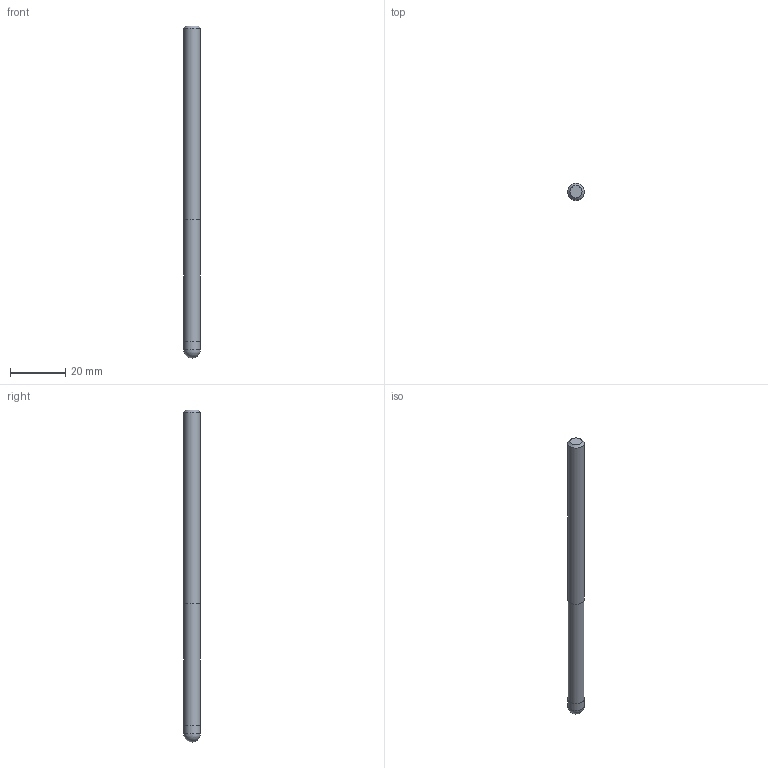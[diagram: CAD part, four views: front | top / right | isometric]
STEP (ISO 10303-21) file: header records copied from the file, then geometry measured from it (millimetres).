
FILE_DESCRIPTION((''),'2;1');
FILE_NAME('C:\Users\nsx150\AppData\Local\Temp\Mastercam 2021\3SYKECWX22\TEMP.step','2021-04-22T10:06:05',(''),(''),'STEP Write','Mastercam 2021 ... CNC Software, Inc.','');
FILE_SCHEMA(('AUTOMOTIVE_DESIGN'));
Length unit declared in the file: millimetre
Products named in the file (1): None
Bounding box: 6 x 6 x 120 mm (x, y, z)
Volume: 3277.6 mm3; surface area: 2309.5 mm2
Topology: 2 solids, 2 shells, 9 faces, 13 edges, 8 vertices
Faces by surface type: plane 4, cylinder 3, sphere 1, cone 1
Full cylindrical faces by diameter (mm): 5.8 x1, 6 x2
Entity records: 211 total; most frequent: DIRECTION 36, CARTESIAN_POINT 25, AXIS2_PLACEMENT_3D 18, ORIENTED_EDGE 14, EDGE_LOOP 14, STYLED_ITEM 12, ADVANCED_FACE 9, FACE_BOUND 8
